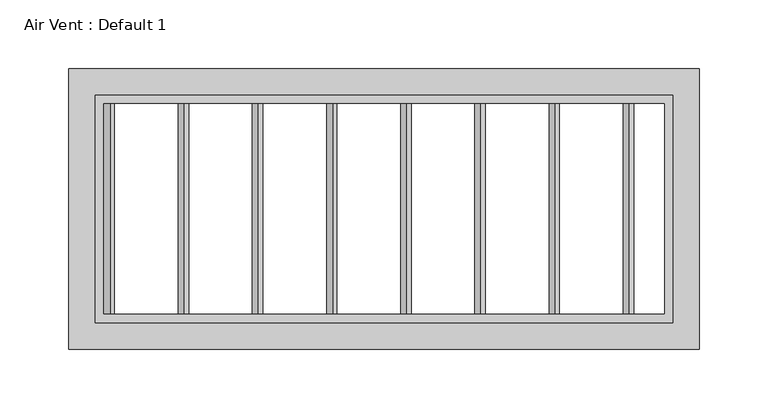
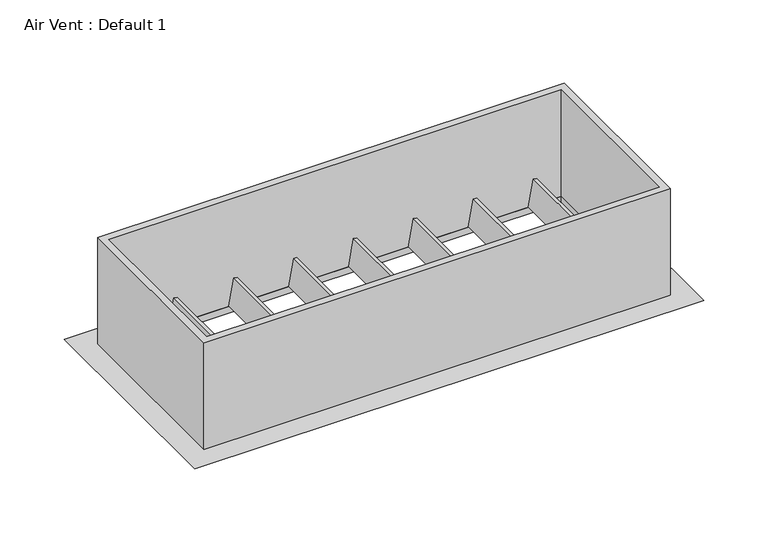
"""IFC4 building model written with IfcOpenShell, lengths in millimetres: proxy geometry, Air Vent : Default 1."""

from ifc_helpers import new_model, si_unit, frame, origin, place, context, project, spatial, polyline, outline, extrude, faceted_brep, source, transform, mapped, element, save


def air_vent_default_1_932c76b0(model_context):
    return source(origin(), model_context, "Body", "SolidModel", [
        extrude(outline(polyline([(0.0, 3.175), (152.4, 3.175), (152.4, 0.0), (0.0, 0.0), (0.0, 3.175)])), frame((-149.370372, 76.2, 2438.951333), z_axis=(0.1736481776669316, 0.0, 0.9848077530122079), x_axis=(0.0, -1.0, 0.0)), (0.0, 0.0, 1.0), 25.4),
        extrude(outline(polyline([(0.0, 3.175), (152.4, 3.175), (152.4, 0.0), (0.0, 0.0), (0.0, 3.175)])), frame((-95.5407441, 76.2, 2438.951333), z_axis=(0.1736481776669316, 0.0, 0.9848077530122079), x_axis=(0.0, -1.0, 0.0)), (0.0, 0.0, 1.0), 25.4),
        extrude(outline(polyline([(0.0, 3.175), (152.4, 3.175), (152.4, 0.0), (0.0, 0.0), (0.0, 3.175)])), frame((-41.7111161, 76.2, 2438.951333), z_axis=(0.1736481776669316, 0.0, 0.9848077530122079), x_axis=(0.0, -1.0, 0.0)), (0.0, 0.0, 1.0), 25.4),
        extrude(outline(polyline([(0.0, 3.175), (152.4, 3.175), (152.4, 0.0), (0.0, 0.0), (0.0, 3.175)])), frame((12.1185118, 76.2, 2438.951333), z_axis=(0.1736481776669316, 0.0, 0.9848077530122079), x_axis=(0.0, -1.0, 0.0)), (0.0, 0.0, 1.0), 25.4),
        extrude(outline(polyline([(0.0, 3.175), (152.4, 3.175), (152.4, 0.0), (0.0, 0.0), (0.0, 3.175)])), frame((65.9481398, 76.2, 2438.951333), z_axis=(0.1736481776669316, 0.0, 0.9848077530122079), x_axis=(0.0, -1.0, 0.0)), (0.0, 0.0, 1.0), 25.4),
        extrude(outline(polyline([(0.0, 3.1750001), (152.4, 3.1750001), (152.4, 0.0), (0.0, 0.0), (0.0, 3.1750001)])), frame((119.7777677, 76.2, 2438.951333), z_axis=(0.1736481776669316, 0.0, 0.9848077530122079), x_axis=(0.0, -1.0, 0.0)), (0.0, 0.0, 1.0), 25.4),
        extrude(outline(polyline([(0.0, 3.175), (152.4, 3.175), (152.4, 0.0), (0.0, 0.0), (0.0, 3.175)])), frame((173.6073957, 76.2, 2438.951333), z_axis=(0.1736481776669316, 0.0, 0.9848077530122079), x_axis=(0.0, -1.0, 0.0)), (0.0, 0.0, 1.0), 25.4),
        extrude(outline(polyline([(0.0, 3.175), (152.4, 3.175), (152.4, 0.0), (0.0, 0.0), (0.0, 3.175)])), frame((-203.2, 76.2, 2438.951333), z_axis=(0.1736481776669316, 0.0, 0.9848077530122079), x_axis=(0.0, -1.0, 0.0)), (0.0, 0.0, 1.0), 25.4),
        faceted_brep([(203.2, -76.2, 2438.4), (203.2, 76.2, 2438.4), (203.2, 76.2, 2432.05), (203.2, -76.2, 2432.05), (-203.2, 76.2, 2438.4), (-203.2, 76.2, 2432.05), (-203.2, -76.2, 2438.4), (-203.2, -76.2, 2432.05), (215.9, 88.9, 2432.05), (215.9, -88.9, 2432.05), (-215.9, -88.9, 2432.05), (-215.9, 88.9, 2432.05), (228.6, -101.6, 2438.4), (228.6, 101.6, 2438.4), (-228.6, 101.6, 2438.4), (-228.6, -101.6, 2438.4)], [[[0, 1, 2, 3]], [[1, 4, 5, 2]], [[4, 6, 7, 5]], [[8, 9, 10, 11], [3, 2, 5, 7]], [[12, 13, 14, 15], [1, 0, 6, 4]], [[6, 0, 3, 7]], [[9, 8, 13, 12]], [[8, 11, 14, 13]], [[11, 10, 15, 14]], [[10, 9, 12, 15]]]),
        extrude(outline(polyline([(209.55, -82.55), (-209.55, -82.55), (-209.55, 82.55), (209.55, 82.55), (209.55, -82.55)]), holes=[polyline([(203.2, -76.2), (203.2, 76.2), (-203.2, 76.2), (-203.2, -76.2), (203.2, -76.2)])]), frame((0.0, 0.0, 2438.4), z_axis=(0.0, 0.0, 1.0), x_axis=(1.0, 0.0, 0.0)), (0.0, 0.0, 1.0), 101.6),
    ])


if __name__ == "__main__":
    model = new_model("IFC4")
    model_context = context("Model", 3, world=origin())
    ifc_project = project(units=[si_unit("LENGTHUNIT", "METRE", prefix="MILLI")], contexts=[model_context])
    site = spatial("IfcSite", under=ifc_project)
    building = spatial("IfcBuilding", under=site)
    placement = place(None, origin())
    air_vent_default_1_shape = air_vent_default_1_932c76b0(model_context)
    element("IfcBuildingElementProxy", 1, Name="Air Vent : Default 1", ObjectType="Air Vent : Default 1", at=placement, inside=building, context=model_context, shape_type="MappedRepresentation", body=[
        mapped(air_vent_default_1_shape, transform((0.0, 0.0, 0.0), x_axis=(1.0, 0.0, 0.0), y_axis=(0.0, 1.0, 0.0), z_axis=(0.0, 0.0, 1.0))),
    ])
    save(model, "model.ifc")
